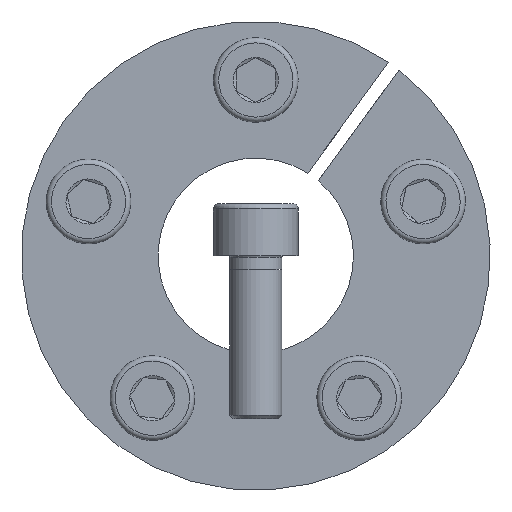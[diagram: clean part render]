
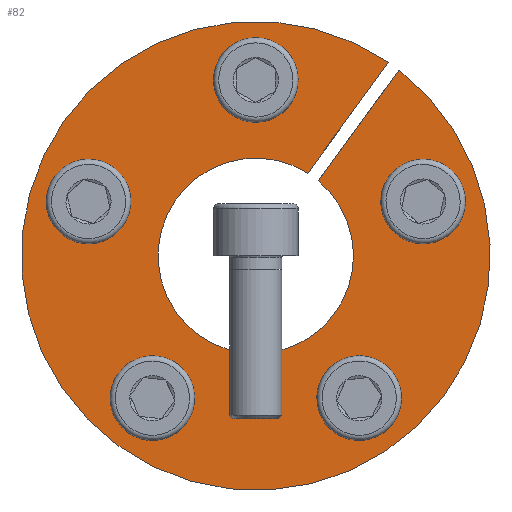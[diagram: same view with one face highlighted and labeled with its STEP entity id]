
A CAD part, front view. The second image highlights one B-rep face of the part: STEP entity #82.
In plain terms, the highlighted planar face has unit normal (0, -1, 0).
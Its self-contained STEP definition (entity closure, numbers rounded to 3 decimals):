
#82 = ADVANCED_FACE( '', ( #173, #174, #175, #176, #177, #178 ), #179, .F. );
#173 = FACE_OUTER_BOUND( '', #293, .T. );
#174 = FACE_BOUND( '', #294, .T. );
#175 = FACE_BOUND( '', #295, .T. );
#176 = FACE_BOUND( '', #296, .T. );
#177 = FACE_BOUND( '', #297, .T. );
#178 = FACE_BOUND( '', #298, .T. );
#179 = PLANE( '', #299 );
#293 = EDGE_LOOP( '', ( #463, #464, #465, #466 ) );
#294 = EDGE_LOOP( '', ( #467 ) );
#295 = EDGE_LOOP( '', ( #468 ) );
#296 = EDGE_LOOP( '', ( #469 ) );
#297 = EDGE_LOOP( '', ( #470 ) );
#298 = EDGE_LOOP( '', ( #471 ) );
#299 = AXIS2_PLACEMENT_3D( '', #472, #473, #474 );
#463 = ORIENTED_EDGE( '', *, *, #681, .T. );
#464 = ORIENTED_EDGE( '', *, *, #682, .T. );
#465 = ORIENTED_EDGE( '', *, *, #683, .T. );
#466 = ORIENTED_EDGE( '', *, *, #684, .F. );
#467 = ORIENTED_EDGE( '', *, *, #685, .F. );
#468 = ORIENTED_EDGE( '', *, *, #667, .F. );
#469 = ORIENTED_EDGE( '', *, *, #676, .F. );
#470 = ORIENTED_EDGE( '', *, *, #686, .F. );
#471 = ORIENTED_EDGE( '', *, *, #669, .F. );
#472 = CARTESIAN_POINT( '', ( 0., 0., 36. ) );
#473 = DIRECTION( '', ( 0., 1., 0. ) );
#474 = DIRECTION( '', ( 1., 0., 0. ) );
#667 = EDGE_CURVE( '', #817, #817, #818, .T. );
#669 = EDGE_CURVE( '', #820, #820, #821, .T. );
#676 = EDGE_CURVE( '', #832, #832, #833, .T. );
#681 = EDGE_CURVE( '', #840, #841, #842, .T. );
#682 = EDGE_CURVE( '', #841, #843, #844, .T. );
#683 = EDGE_CURVE( '', #843, #845, #846, .T. );
#684 = EDGE_CURVE( '', #840, #845, #847, .T. );
#685 = EDGE_CURVE( '', #848, #848, #849, .T. );
#686 = EDGE_CURVE( '', #850, #850, #851, .T. );
#817 = VERTEX_POINT( '', #1088 );
#818 = CIRCLE( '', #1089, 4.5 );
#820 = VERTEX_POINT( '', #1091 );
#821 = CIRCLE( '', #1092, 4.5 );
#832 = VERTEX_POINT( '', #1105 );
#833 = CIRCLE( '', #1106, 4.5 );
#840 = VERTEX_POINT( '', #1113 );
#841 = VERTEX_POINT( '', #1114 );
#842 = LINE( '', #1115, #1116 );
#843 = VERTEX_POINT( '', #1117 );
#844 = CIRCLE( '', #1118, 36. );
#845 = VERTEX_POINT( '', #1119 );
#846 = LINE( '', #1120, #1121 );
#847 = CIRCLE( '', #1122, 15. );
#848 = VERTEX_POINT( '', #1123 );
#849 = CIRCLE( '', #1124, 4.5 );
#850 = VERTEX_POINT( '', #1125 );
#851 = CIRCLE( '', #1126, 4.5 );
#1088 = CARTESIAN_POINT( '', ( 27.069, 0., 4.064 ) );
#1089 = AXIS2_PLACEMENT_3D( '', #1247, #1248, #1249 );
#1091 = CARTESIAN_POINT( '', ( -24.288, 0., 12.623 ) );
#1092 = AXIS2_PLACEMENT_3D( '', #1250, #1251, #1252 );
#1105 = CARTESIAN_POINT( '', ( 12.23, 0., -24.488 ) );
#1106 = AXIS2_PLACEMENT_3D( '', #1261, #1262, #1263 );
#1113 = CARTESIAN_POINT( '', ( 7.988, 0., 12.696 ) );
#1114 = CARTESIAN_POINT( '', ( 20.343, 0., 29.701 ) );
#1115 = CARTESIAN_POINT( '', ( 7.988, 0., 12.696 ) );
#1116 = VECTOR( '', #1270, 1000. );
#1117 = CARTESIAN_POINT( '', ( 21.961, 0., 28.526 ) );
#1118 = AXIS2_PLACEMENT_3D( '', #1271, #1272, #1273 );
#1119 = CARTESIAN_POINT( '', ( 9.606, 0., 11.52 ) );
#1120 = CARTESIAN_POINT( '', ( 21.969, 0., 28.537 ) );
#1121 = VECTOR( '', #1274, 1000. );
#1122 = AXIS2_PLACEMENT_3D( '', #1275, #1276, #1277 );
#1123 = CARTESIAN_POINT( '', ( 4.5, 0., 27. ) );
#1124 = AXIS2_PLACEMENT_3D( '', #1278, #1279, #1280 );
#1125 = CARTESIAN_POINT( '', ( -19.511, 0., -19.198 ) );
#1126 = AXIS2_PLACEMENT_3D( '', #1281, #1282, #1283 );
#1247 = CARTESIAN_POINT( '', ( 25.679, 0., 8.343 ) );
#1248 = DIRECTION( '', ( 0., -1., 0. ) );
#1249 = DIRECTION( '', ( 0.309, 0., -0.951 ) );
#1250 = CARTESIAN_POINT( '', ( -25.679, 0., 8.343 ) );
#1251 = DIRECTION( '', ( 0., -1., 0. ) );
#1252 = DIRECTION( '', ( 0.309, 0., 0.951 ) );
#1261 = CARTESIAN_POINT( '', ( 15.87, 0., -21.843 ) );
#1262 = DIRECTION( '', ( 0., -1., 0. ) );
#1263 = DIRECTION( '', ( -0.809, 0., -0.588 ) );
#1270 = DIRECTION( '', ( 0.588, 0., 0.809 ) );
#1271 = CARTESIAN_POINT( '', ( 0., 0., 0. ) );
#1272 = DIRECTION( '', ( 0., -1., 0. ) );
#1273 = DIRECTION( '', ( 0., 0., -1. ) );
#1274 = DIRECTION( '', ( -0.588, 0., -0.809 ) );
#1275 = CARTESIAN_POINT( '', ( 0., 0., 0. ) );
#1276 = DIRECTION( '', ( 0., -1., 0. ) );
#1277 = DIRECTION( '', ( 0., 0., -1. ) );
#1278 = CARTESIAN_POINT( '', ( 0., 0., 27. ) );
#1279 = DIRECTION( '', ( 0., -1., 0. ) );
#1280 = DIRECTION( '', ( 1., 0., 0. ) );
#1281 = CARTESIAN_POINT( '', ( -15.87, 0., -21.843 ) );
#1282 = DIRECTION( '', ( 0., -1., 0. ) );
#1283 = DIRECTION( '', ( -0.809, 0., 0.588 ) );
